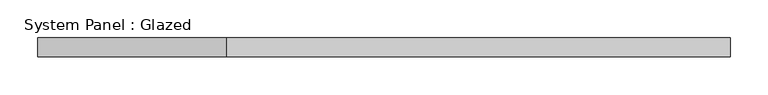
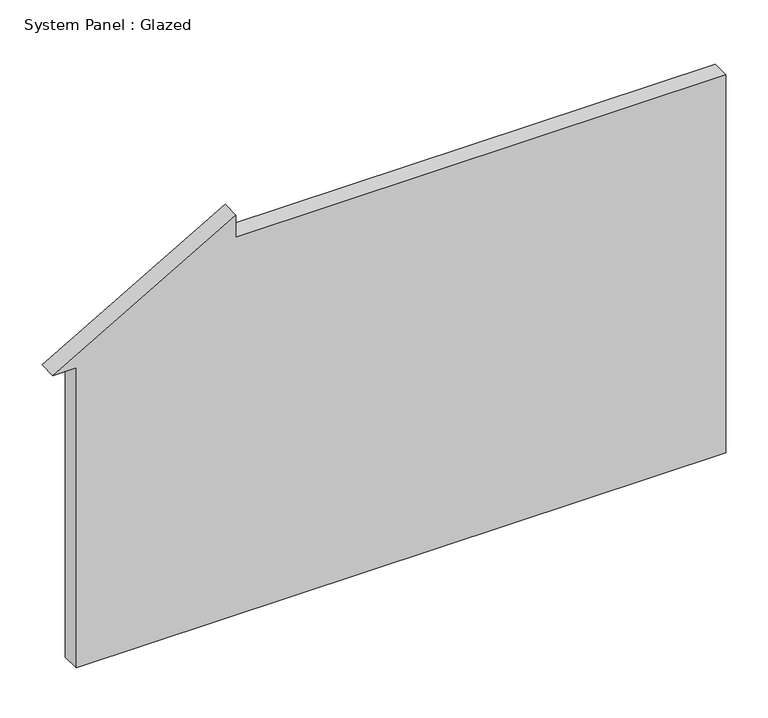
"""IFC4 building model written with IfcOpenShell, lengths in millimetres: plate geometry, System Panel : Glazed."""

from ifc_helpers import new_model, si_unit, frame, origin, place, context, project, spatial, polyline, outline, extrude, source, transform, mapped, element, save


def system_panel_glazed_23be9bc1(model_context):
    return source(origin(), model_context, "Body", "SweptSolid", [
        extrude(outline(polyline([(0.0, -428.0958333), (0.0, 459.8458333), (546.1, 459.8458333), (546.1, -209.7378221), (577.85, -209.7378221), (433.4500724, -459.8458333), (433.4500724, -428.0958333), (0.0, -428.0958333)])), frame((0.0, 19.05, 0.0), z_axis=(0.0, 1.0, 0.0), x_axis=(0.0, 0.0, 1.0)), (0.0, 0.0, 1.0), 25.4),
    ])


if __name__ == "__main__":
    model = new_model("IFC4")
    model_context = context("Model", 3, world=origin())
    ifc_project = project(units=[si_unit("LENGTHUNIT", "METRE", prefix="MILLI")], contexts=[model_context])
    site = spatial("IfcSite", under=ifc_project)
    building = spatial("IfcBuilding", under=site)
    placement = place(None, origin())
    system_panel_glazed_shape = system_panel_glazed_23be9bc1(model_context)
    element("IfcPlate", 1, ObjectType="System Panel : Glazed", at=placement, inside=building, context=model_context, shape_type="MappedRepresentation", body=[
        mapped(system_panel_glazed_shape, transform((0.0, 0.0, 0.0), x_axis=(1.0, 0.0, 0.0), y_axis=(0.0, 1.0, 0.0), z_axis=(0.0, 0.0, 1.0))),
    ])
    save(model, "model.ifc")
